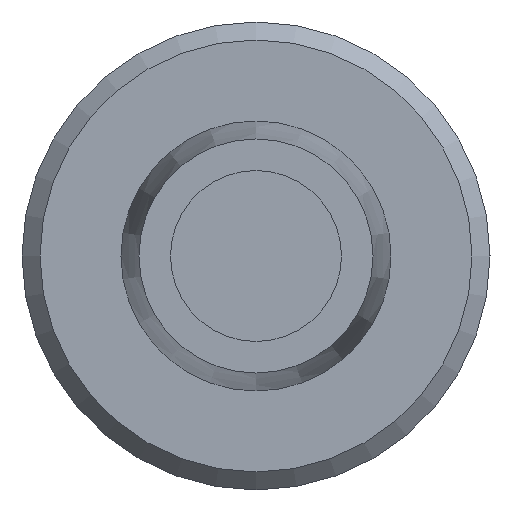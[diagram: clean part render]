
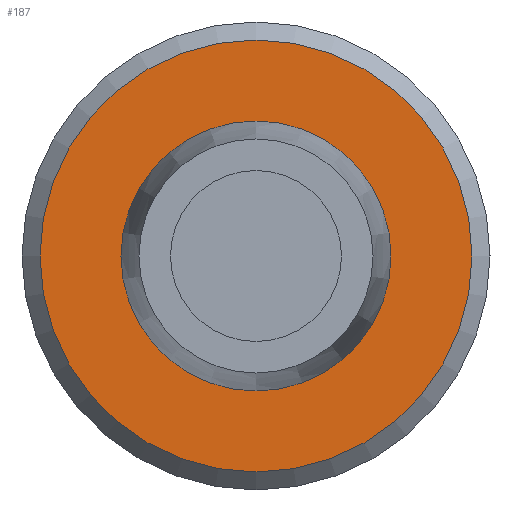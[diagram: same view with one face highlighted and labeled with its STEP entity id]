
A CAD part, left-side view. The second image highlights one B-rep face of the part: STEP entity #187.
In plain terms, the highlighted planar face has unit normal (-1, 0, 0).
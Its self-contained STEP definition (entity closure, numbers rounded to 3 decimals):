
#187 = ADVANCED_FACE( '', ( #258, #259 ), #260, .T. );
#258 = FACE_BOUND( '', #354, .T. );
#259 = FACE_OUTER_BOUND( '', #355, .T. );
#260 = PLANE( '', #356 );
#354 = EDGE_LOOP( '', ( #485 ) );
#355 = EDGE_LOOP( '', ( #486 ) );
#356 = AXIS2_PLACEMENT_3D( '', #487, #488, #489 );
#485 = ORIENTED_EDGE( '', *, *, #573, .T. );
#486 = ORIENTED_EDGE( '', *, *, #572, .F. );
#487 = CARTESIAN_POINT( '', ( 0., 12., 0. ) );
#488 = DIRECTION( '', ( -1., 0., 0. ) );
#489 = DIRECTION( '', ( 0., 0., 1. ) );
#572 = EDGE_CURVE( '', #621, #621, #622, .T. );
#573 = EDGE_CURVE( '', #623, #623, #624, .T. );
#621 = VERTEX_POINT( '', #683 );
#622 = CIRCLE( '', #684, 12. );
#623 = VERTEX_POINT( '', #685 );
#624 = CIRCLE( '', #686, 7.5 );
#683 = CARTESIAN_POINT( '', ( 0., 0., -12. ) );
#684 = AXIS2_PLACEMENT_3D( '', #763, #764, #765 );
#685 = CARTESIAN_POINT( '', ( 0., 0., -7.5 ) );
#686 = AXIS2_PLACEMENT_3D( '', #766, #767, #768 );
#763 = CARTESIAN_POINT( '', ( 0., 0., 0. ) );
#764 = DIRECTION( '', ( 1., 0., 0. ) );
#765 = DIRECTION( '', ( 0., 0., -1. ) );
#766 = CARTESIAN_POINT( '', ( 0., 0., 0. ) );
#767 = DIRECTION( '', ( 1., 0., 0. ) );
#768 = DIRECTION( '', ( 0., 0., -1. ) );
